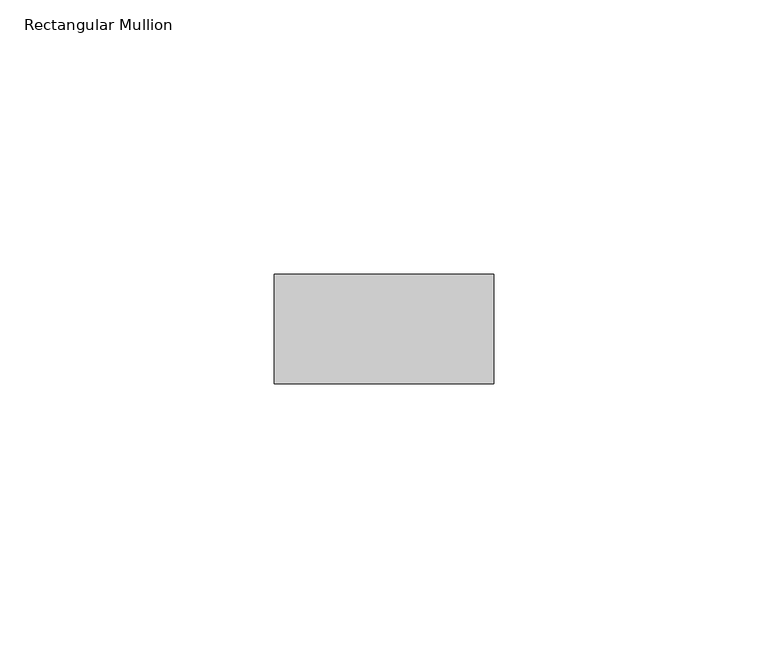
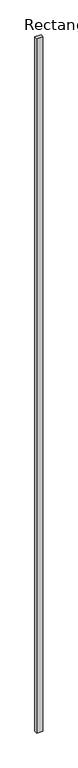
"""IFC4 building model written with IfcOpenShell, lengths in millimetres: member geometry, Rectangular Mullion : RIPA 4x2 cm."""

from ifc_helpers import new_model, si_unit, frame, origin, place, context, project, spatial, polyline, outline, extrude, source, transform, mapped, element, save


def rectangular_mullion_a27f073b(model_context):
    return source(origin(), model_context, "Body", "SweptSolid", [
        extrude(outline(polyline([(0.0, 0.0), (0.0, -20.0), (-40.0, -20.0), (-40.0, 0.0), (0.0, 0.0)])), frame((0.0, 0.0, -4800.0), z_axis=(0.0, 0.0, 1.0), x_axis=(1.0, 0.0, 0.0)), (0.0, 0.0, 1.0), 4800.0),
    ])


if __name__ == "__main__":
    model = new_model("IFC4")
    model_context = context("Model", 3, world=origin())
    ifc_project = project(units=[si_unit("LENGTHUNIT", "METRE", prefix="MILLI")], contexts=[model_context])
    site = spatial("IfcSite", under=ifc_project)
    building = spatial("IfcBuilding", under=site)
    placement = place(None, origin())
    rectangular_mullion_shape = rectangular_mullion_a27f073b(model_context)
    element("IfcMember", 1, ObjectType="Rectangular Mullion : RIPA 4x2 cm", at=placement, inside=building, context=model_context, shape_type="MappedRepresentation", body=[
        mapped(rectangular_mullion_shape, transform((0.0, 0.0, 0.0), x_axis=(1.0, 0.0, 0.0), y_axis=(0.0, 1.0, 0.0), z_axis=(0.0, 0.0, 1.0))),
    ])
    save(model, "model.ifc")
